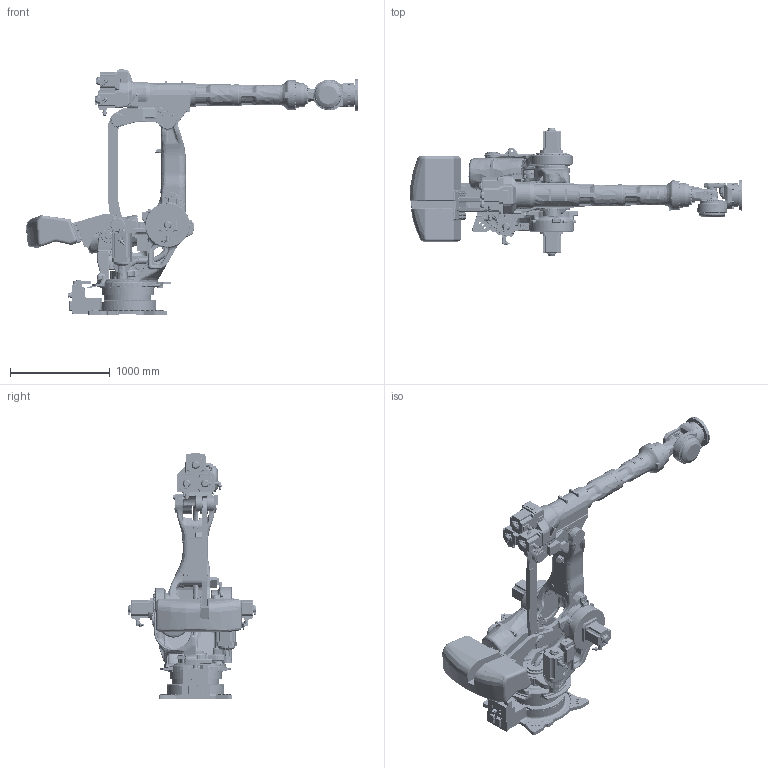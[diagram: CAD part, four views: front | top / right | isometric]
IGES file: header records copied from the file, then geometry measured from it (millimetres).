
Global section: file name: U:\Moto\gp400_asm\gp400-Fertig\gp400.igs; native system: NX V10.0; preprocessor: SIEMENS PLM Software NX 10.0; date: 20180525.171644; units: millimetre
Bounding box: 3322.01 x 1287 x 2460 mm (x, y, z)
Surface area: 17020825.1 mm2 (no closed solid volume)
Topology: 0 solids, 0 shells, 12040 faces, 83423 edges, 83371 vertices
Faces by surface type: bspline 12040
